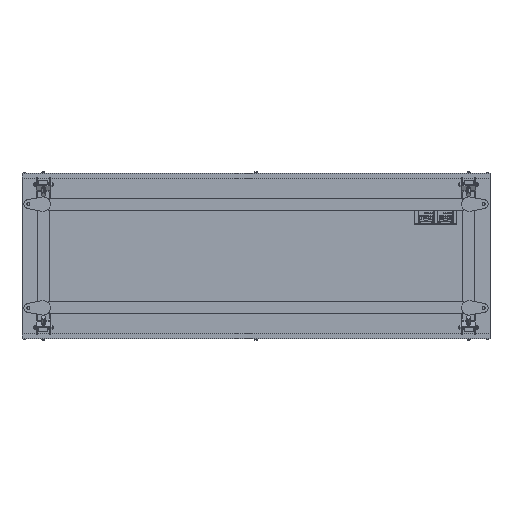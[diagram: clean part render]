
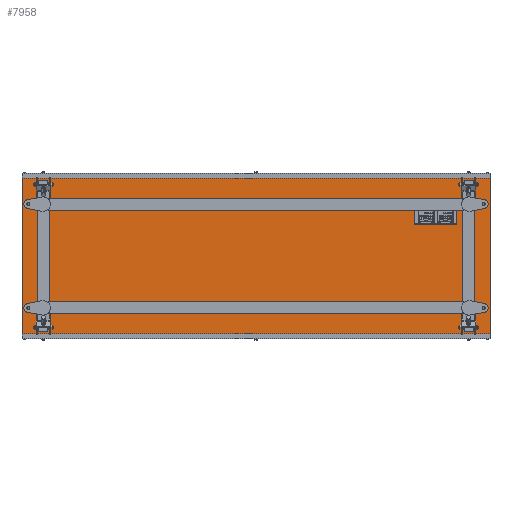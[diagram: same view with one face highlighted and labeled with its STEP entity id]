
A CAD part, front view. The second image highlights one B-rep face of the part: STEP entity #7958.
In plain terms, the highlighted planar face has unit normal (0, -1, 0).
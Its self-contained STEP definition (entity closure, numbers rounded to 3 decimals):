
#7958=ADVANCED_FACE('',(#47483,#47484,#47485,#47486,#47487),#47482,.F.);
#47482=PLANE('',#70805);
#47483=FACE_OUTER_BOUND('',#70806,.T.);
#47484=FACE_BOUND('',#70807,.T.);
#47485=FACE_BOUND('',#70808,.T.);
#47486=FACE_BOUND('',#70809,.T.);
#47487=FACE_BOUND('',#70810,.T.);
#70802=CARTESIAN_POINT('',(-10.,-180.,-340.));
#70803=DIRECTION('',(0.,1.,0.));
#70804=DIRECTION('',(0.,0.,1.));
#70805=AXIS2_PLACEMENT_3D('',#70802,#70803,#70804);
#70806=EDGE_LOOP('',(#91012,#91013,#91014,#91015));
#70807=EDGE_LOOP('',(#91016,#91017,#91018,#91019));
#70808=EDGE_LOOP('',(#91020,#91021,#91022,#91023));
#70809=EDGE_LOOP('',(#91024,#91025,#91026,#91027));
#70810=EDGE_LOOP('',(#91028,#91029,#91030,#91031));
#91012=ORIENTED_EDGE('',*,*,#101649,.T.);
#91013=ORIENTED_EDGE('',*,*,#101747,.F.);
#91014=ORIENTED_EDGE('',*,*,#101633,.F.);
#91015=ORIENTED_EDGE('',*,*,#101748,.T.);
#91016=ORIENTED_EDGE('',*,*,#101626,.F.);
#91017=ORIENTED_EDGE('',*,*,#101617,.F.);
#91018=ORIENTED_EDGE('',*,*,#101620,.F.);
#91019=ORIENTED_EDGE('',*,*,#101623,.F.);
#91020=ORIENTED_EDGE('',*,*,#101036,.T.);
#91021=ORIENTED_EDGE('',*,*,#101037,.T.);
#91022=ORIENTED_EDGE('',*,*,#101028,.T.);
#91023=ORIENTED_EDGE('',*,*,#101032,.T.);
#91024=ORIENTED_EDGE('',*,*,#101428,.T.);
#91025=ORIENTED_EDGE('',*,*,#101429,.T.);
#91026=ORIENTED_EDGE('',*,*,#101420,.T.);
#91027=ORIENTED_EDGE('',*,*,#101424,.T.);
#91028=ORIENTED_EDGE('',*,*,#101234,.F.);
#91029=ORIENTED_EDGE('',*,*,#101225,.F.);
#91030=ORIENTED_EDGE('',*,*,#101228,.F.);
#91031=ORIENTED_EDGE('',*,*,#101231,.F.);
#101028=EDGE_CURVE('',#162272,#162273,#162274,.T.);
#101032=EDGE_CURVE('',#162273,#162292,#162299,.T.);
#101036=EDGE_CURVE('',#162292,#162319,#162326,.T.);
#101037=EDGE_CURVE('',#162319,#162272,#162332,.T.);
#101225=EDGE_CURVE('',#163603,#163589,#163610,.T.);
#101228=EDGE_CURVE('',#163622,#163603,#163629,.T.);
#101231=EDGE_CURVE('',#163649,#163622,#163650,.T.);
#101234=EDGE_CURVE('',#163589,#163649,#163668,.T.);
#101420=EDGE_CURVE('',#164930,#164931,#164932,.T.);
#101424=EDGE_CURVE('',#164931,#164950,#164957,.T.);
#101428=EDGE_CURVE('',#164950,#164977,#164984,.T.);
#101429=EDGE_CURVE('',#164977,#164930,#164990,.T.);
#101617=EDGE_CURVE('',#166261,#166247,#166268,.T.);
#101620=EDGE_CURVE('',#166280,#166261,#166287,.T.);
#101623=EDGE_CURVE('',#166307,#166280,#166308,.T.);
#101626=EDGE_CURVE('',#166247,#166307,#166326,.T.);
#101633=EDGE_CURVE('',#166368,#166375,#166376,.T.);
#101649=EDGE_CURVE('',#166483,#166476,#166484,.T.);
#101747=EDGE_CURVE('',#166375,#166476,#167080,.T.);
#101748=EDGE_CURVE('',#166368,#166483,#167086,.T.);
#162272=VERTEX_POINT('',#203620);
#162273=VERTEX_POINT('',#203621);
#162274=LINE('',#203622,#203623);
#162292=VERTEX_POINT('',#203631);
#162299=LINE('',#203635,#203636);
#162319=VERTEX_POINT('',#203648);
#162326=LINE('',#203652,#203653);
#162332=LINE('',#203655,#203656);
#163589=VERTEX_POINT('',#204399);
#163603=VERTEX_POINT('',#204407);
#163610=LINE('',#204411,#204412);
#163622=VERTEX_POINT('',#204417);
#163629=LINE('',#204421,#204422);
#163649=VERTEX_POINT('',#204434);
#163650=LINE('',#204435,#204436);
#163668=LINE('',#204444,#204445);
#164930=VERTEX_POINT('',#205192);
#164931=VERTEX_POINT('',#205193);
#164932=LINE('',#205194,#205195);
#164950=VERTEX_POINT('',#205203);
#164957=LINE('',#205207,#205208);
#164977=VERTEX_POINT('',#205220);
#164984=LINE('',#205224,#205225);
#164990=LINE('',#205227,#205228);
#166247=VERTEX_POINT('',#205971);
#166261=VERTEX_POINT('',#205979);
#166268=LINE('',#205983,#205984);
#166280=VERTEX_POINT('',#205989);
#166287=LINE('',#205993,#205994);
#166307=VERTEX_POINT('',#206006);
#166308=LINE('',#206007,#206008);
#166326=LINE('',#206016,#206017);
#166368=VERTEX_POINT('',#206042);
#166375=VERTEX_POINT('',#206046);
#166376=LINE('',#206047,#206048);
#166476=VERTEX_POINT('',#206102);
#166483=VERTEX_POINT('',#206106);
#166484=LINE('',#206107,#206108);
#167080=LINE('',#206489,#206490);
#167086=LINE('',#206492,#206493);
#203620=CARTESIAN_POINT('',(70.,-180.,322.));
#203621=CARTESIAN_POINT('',(110.,-180.,322.));
#203622=CARTESIAN_POINT('',(70.,-180.,322.));
#203623=VECTOR('',#203624,40.);
#203624=DIRECTION('',(1.,0.,0.));
#203631=CARTESIAN_POINT('',(110.,-180.,282.));
#203635=CARTESIAN_POINT('',(110.,-180.,322.));
#203636=VECTOR('',#203637,40.);
#203637=DIRECTION('',(0.,0.,-1.));
#203648=CARTESIAN_POINT('',(70.,-180.,282.));
#203652=CARTESIAN_POINT('',(110.,-180.,282.));
#203653=VECTOR('',#203654,40.);
#203654=DIRECTION('',(-1.,0.,0.));
#203655=CARTESIAN_POINT('',(70.,-180.,282.));
#203656=VECTOR('',#203657,40.);
#203657=DIRECTION('',(0.,0.,1.));
#204399=CARTESIAN_POINT('',(1915.,-180.,282.));
#204407=CARTESIAN_POINT('',(1875.,-180.,282.));
#204411=CARTESIAN_POINT('',(1875.,-180.,282.));
#204412=VECTOR('',#204413,40.);
#204413=DIRECTION('',(1.,0.,0.));
#204417=CARTESIAN_POINT('',(1875.,-180.,322.));
#204421=CARTESIAN_POINT('',(1875.,-180.,322.));
#204422=VECTOR('',#204423,40.);
#204423=DIRECTION('',(0.,0.,-1.));
#204434=CARTESIAN_POINT('',(1915.,-180.,322.));
#204435=CARTESIAN_POINT('',(1915.,-180.,322.));
#204436=VECTOR('',#204437,40.);
#204437=DIRECTION('',(-1.,0.,0.));
#204444=CARTESIAN_POINT('',(1915.,-180.,282.));
#204445=VECTOR('',#204446,40.);
#204446=DIRECTION('',(0.,0.,1.));
#205192=CARTESIAN_POINT('',(1915.,-180.,-322.));
#205193=CARTESIAN_POINT('',(1875.,-180.,-322.));
#205194=CARTESIAN_POINT('',(1915.,-180.,-322.));
#205195=VECTOR('',#205196,40.);
#205196=DIRECTION('',(-1.,0.,0.));
#205203=CARTESIAN_POINT('',(1875.,-180.,-282.));
#205207=CARTESIAN_POINT('',(1875.,-180.,-322.));
#205208=VECTOR('',#205209,40.);
#205209=DIRECTION('',(0.,0.,1.));
#205220=CARTESIAN_POINT('',(1915.,-180.,-282.));
#205224=CARTESIAN_POINT('',(1875.,-180.,-282.));
#205225=VECTOR('',#205226,40.);
#205226=DIRECTION('',(1.,0.,0.));
#205227=CARTESIAN_POINT('',(1915.,-180.,-282.));
#205228=VECTOR('',#205229,40.);
#205229=DIRECTION('',(0.,0.,-1.));
#205971=CARTESIAN_POINT('',(70.,-180.,-282.));
#205979=CARTESIAN_POINT('',(110.,-180.,-282.));
#205983=CARTESIAN_POINT('',(110.,-180.,-282.));
#205984=VECTOR('',#205985,40.);
#205985=DIRECTION('',(-1.,0.,0.));
#205989=CARTESIAN_POINT('',(110.,-180.,-322.));
#205993=CARTESIAN_POINT('',(110.,-180.,-322.));
#205994=VECTOR('',#205995,40.);
#205995=DIRECTION('',(0.,0.,1.));
#206006=CARTESIAN_POINT('',(70.,-180.,-322.));
#206007=CARTESIAN_POINT('',(70.,-180.,-322.));
#206008=VECTOR('',#206009,40.);
#206009=DIRECTION('',(1.,0.,0.));
#206016=CARTESIAN_POINT('',(70.,-180.,-282.));
#206017=VECTOR('',#206018,40.);
#206018=DIRECTION('',(0.,0.,-1.));
#206042=CARTESIAN_POINT('',(1985.,-180.,330.));
#206046=CARTESIAN_POINT('',(1985.,-180.,-330.));
#206047=CARTESIAN_POINT('',(1985.,-180.,330.));
#206048=VECTOR('',#206049,660.);
#206049=DIRECTION('',(0.,0.,-1.));
#206102=CARTESIAN_POINT('',(0.,-180.,-330.));
#206106=CARTESIAN_POINT('',(0.,-180.,330.));
#206107=CARTESIAN_POINT('',(0.,-180.,330.));
#206108=VECTOR('',#206109,660.);
#206109=DIRECTION('',(0.,0.,-1.));
#206489=CARTESIAN_POINT('',(1985.,-180.,-330.));
#206490=VECTOR('',#206491,1985.);
#206491=DIRECTION('',(-1.,0.,0.));
#206492=CARTESIAN_POINT('',(1985.,-180.,330.));
#206493=VECTOR('',#206494,1985.);
#206494=DIRECTION('',(-1.,0.,0.));
